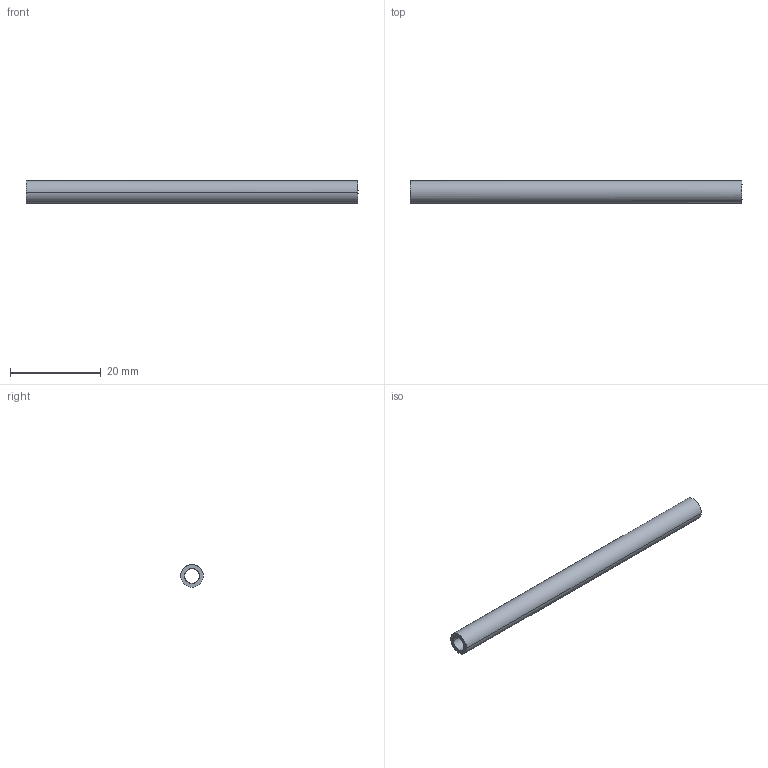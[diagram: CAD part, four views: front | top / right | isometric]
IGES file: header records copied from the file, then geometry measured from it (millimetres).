
Global section: file name: 0393-18-85; native system: VariCAD 2020-1.02; preprocessor: 5.3; author: LVVS3874K00E; organization: Elphe, Inc.; date: 20260812.111602; units: millimetre
Bounding box: 73 x 5 x 5 mm (x, y, z)
Surface area: 1925.7 mm2 (no closed solid volume)
Topology: 0 solids, 0 shells, 6 faces, 24 edges, 24 vertices
Faces by surface type: revolution 4, bspline 2
